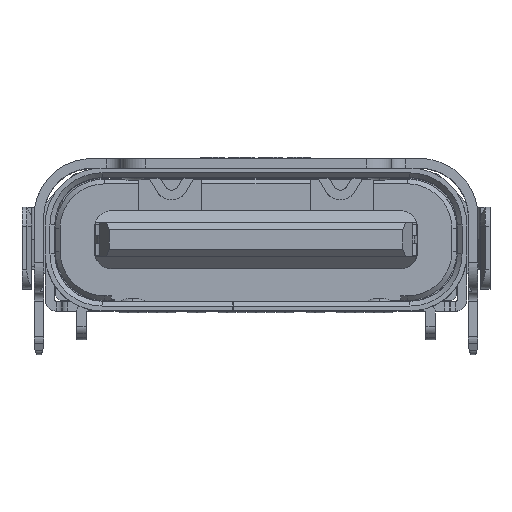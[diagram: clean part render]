
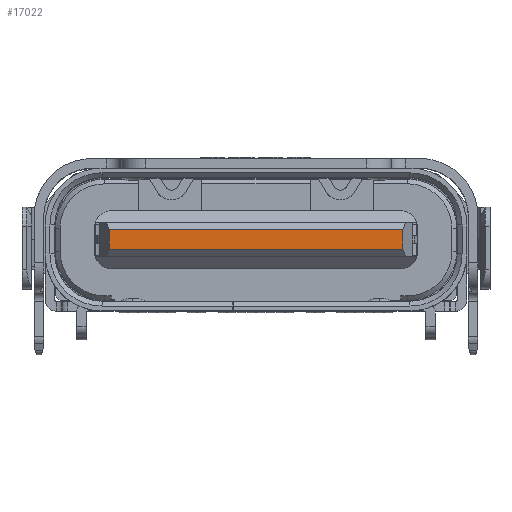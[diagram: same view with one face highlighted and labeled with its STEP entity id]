
A CAD part, top view. The second image highlights one B-rep face of the part: STEP entity #17022.
In plain terms, the highlighted planar face has unit normal (0, 0, 1).
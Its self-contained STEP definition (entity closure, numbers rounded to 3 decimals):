
#888 = CARTESIAN_POINT ( 'NONE',  ( -69.35, -1.851, -41.293 ) ) ;
#3126 = ORIENTED_EDGE ( 'NONE', *, *, #17563, .F. ) ;
#3753 = CARTESIAN_POINT ( 'NONE',  ( -69.35, -2.251, -41.293 ) ) ;
#4533 = B_SPLINE_CURVE_WITH_KNOTS ( 'NONE', 3,
 ( #12799, #33212, #19665, #26530 ),
 .UNSPECIFIED., .F., .F.,
 ( 4, 4 ),
 ( 0., 1. ),
 .UNSPECIFIED. ) ;
#6320 = CARTESIAN_POINT ( 'NONE',  ( -75.44, -1.851, -41.293 ) ) ;
#8434 = CARTESIAN_POINT ( 'NONE',  ( -75.44, -1.851, -41.293 ) ) ;
#8742 = ORIENTED_EDGE ( 'NONE', *, *, #17987, .F. ) ;
#11433 = CARTESIAN_POINT ( 'NONE',  ( -73.41, -1.851, -41.293 ) ) ;
#12799 = CARTESIAN_POINT ( 'NONE',  ( -75.44, -2.251, -41.293 ) ) ;
#14592 = CARTESIAN_POINT ( 'NONE',  ( -75.44, -2.251, -41.293 ) ) ;
#15486 = CARTESIAN_POINT ( 'NONE',  ( -69.35, -1.851, -41.293 ) ) ;
#15537 = VERTEX_POINT ( 'NONE', #3753 ) ;
#16171 = CARTESIAN_POINT ( 'NONE',  ( -69.35, -1.985, -41.293 ) ) ;
#17022 = ADVANCED_FACE ( 'NONE', ( #42455 ), #42221, .T. ) ;
#17563 = EDGE_CURVE ( 'NONE', #20755, #31287, #42481, .T. ) ;
#17963 = AXIS2_PLACEMENT_3D ( 'NONE', #24318, #32126, #42002 ) ;
#17987 = EDGE_CURVE ( 'NONE', #32871, #20755, #40310, .T. ) ;
#19076 = EDGE_CURVE ( 'NONE', #32871, #15537, #4533, .T. ) ;
#19405 = ORIENTED_EDGE ( 'NONE', *, *, #34968, .F. ) ;
#19665 = CARTESIAN_POINT ( 'NONE',  ( -71.38, -2.251, -41.293 ) ) ;
#20755 = VERTEX_POINT ( 'NONE', #6320 ) ;
#21686 = CARTESIAN_POINT ( 'NONE',  ( -75.44, -2.251, -41.293 ) ) ;
#22414 = CARTESIAN_POINT ( 'NONE',  ( -71.38, -1.851, -41.293 ) ) ;
#23969 = EDGE_LOOP ( 'NONE', ( #8742, #28812, #19405, #3126 ) ) ;
#24318 = CARTESIAN_POINT ( 'NONE',  ( -72.395, -2.051, -41.293 ) ) ;
#25244 = B_SPLINE_CURVE_WITH_KNOTS ( 'NONE', 3,
 ( #15486, #16171, #36332, #29462 ),
 .UNSPECIFIED., .F., .F.,
 ( 4, 4 ),
 ( 0., 1. ),
 .UNSPECIFIED. ) ;
#26530 = CARTESIAN_POINT ( 'NONE',  ( -69.35, -2.251, -41.293 ) ) ;
#28554 = CARTESIAN_POINT ( 'NONE',  ( -75.44, -2.118, -41.293 ) ) ;
#28812 = ORIENTED_EDGE ( 'NONE', *, *, #19076, .T. ) ;
#29462 = CARTESIAN_POINT ( 'NONE',  ( -69.35, -2.251, -41.293 ) ) ;
#31287 = VERTEX_POINT ( 'NONE', #45160 ) ;
#32126 = DIRECTION ( 'NONE',  ( 0., 0., 1. ) ) ;
#32871 = VERTEX_POINT ( 'NONE', #21686 ) ;
#33212 = CARTESIAN_POINT ( 'NONE',  ( -73.41, -2.251, -41.293 ) ) ;
#34968 = EDGE_CURVE ( 'NONE', #31287, #15537, #25244, .T. ) ;
#36332 = CARTESIAN_POINT ( 'NONE',  ( -69.35, -2.118, -41.293 ) ) ;
#39130 = CARTESIAN_POINT ( 'NONE',  ( -75.44, -1.851, -41.293 ) ) ;
#40310 = B_SPLINE_CURVE_WITH_KNOTS ( 'NONE', 3,
 ( #14592, #28554, #42580, #39130 ),
 .UNSPECIFIED., .F., .F.,
 ( 4, 4 ),
 ( 0., 1. ),
 .UNSPECIFIED. ) ;
#42002 = DIRECTION ( 'NONE',  ( 1., 0., 0. ) ) ;
#42221 = PLANE ( 'NONE',  #17963 ) ;
#42455 = FACE_OUTER_BOUND ( 'NONE', #23969, .T. ) ;
#42481 = B_SPLINE_CURVE_WITH_KNOTS ( 'NONE', 3,
 ( #8434, #11433, #22414, #888 ),
 .UNSPECIFIED., .F., .F.,
 ( 4, 4 ),
 ( 0., 1. ),
 .UNSPECIFIED. ) ;
#42580 = CARTESIAN_POINT ( 'NONE',  ( -75.44, -1.985, -41.293 ) ) ;
#45160 = CARTESIAN_POINT ( 'NONE',  ( -69.35, -1.851, -41.293 ) ) ;
